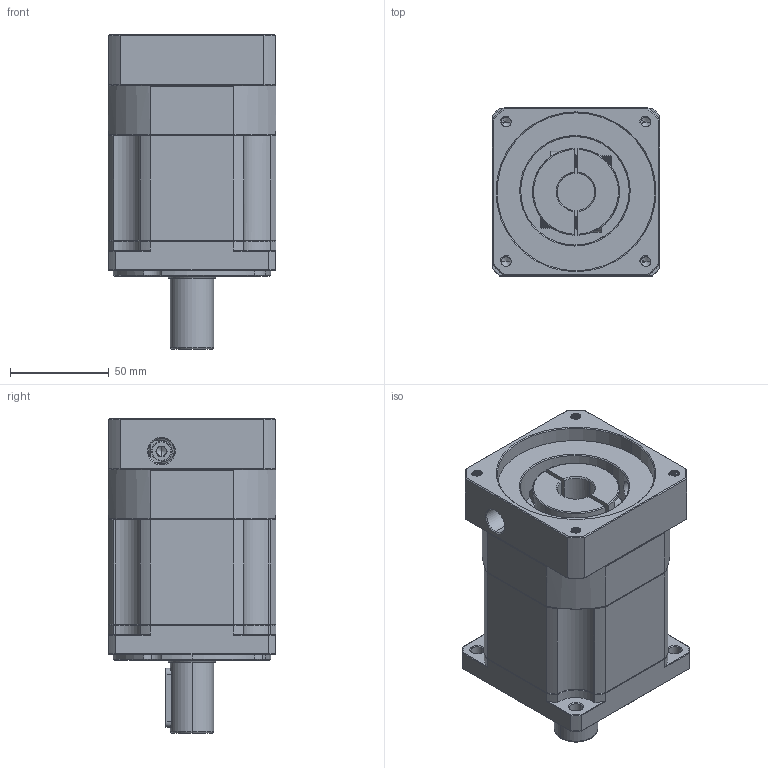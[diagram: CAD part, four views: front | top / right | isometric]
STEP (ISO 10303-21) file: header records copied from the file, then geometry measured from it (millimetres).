
FILE_DESCRIPTION (( 'STEP AP214' ), '1' );
FILE_NAME ('ZB090-D22-L2-P2-19-80-100-M6.step', '2023-08-18T12:14:33', ( '' ), ( '' ), 'SwSTEP 2.0', 'SolidWorks 2016', '' );
FILE_SCHEMA (( 'AUTOMOTIVE_DESIGN' ));
Length unit declared in the file: millimetre
Products named in the file (1): ZB090-D22-L2-P2-19-80-100-M6
Bounding box: 85 x 85 x 159.5 mm (x, y, z)
Volume: 720770.4 mm3; surface area: 92559.9 mm2
Topology: 4 solids, 5 shells, 2220 faces, 5886 edges, 3751 vertices
Faces by surface type: plane 1066, bspline 397, cylinder 396, cone 334, torus 27
Entity records: 120653 total; most frequent: CARTESIAN_POINT 44566, ORIENTED_EDGE 11728, DIRECTION 9172, EDGE_CURVE 5864, VERTEX_POINT 3751, LINE 3724, VECTOR 3724, AXIS2_PLACEMENT_3D 2724
